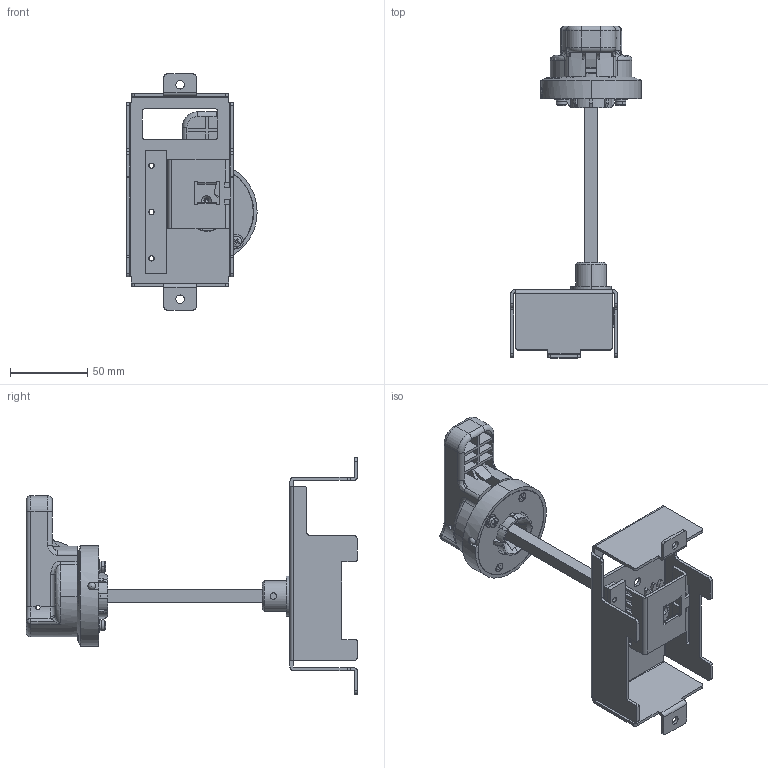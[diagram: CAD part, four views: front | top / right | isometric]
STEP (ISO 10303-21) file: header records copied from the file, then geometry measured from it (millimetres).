
FILE_DESCRIPTION (( 'STEP AP203' ), '1' );
FILE_NAME ('M5-250-Z1A.STEP', '2024-10-21T07:03:35', ( 'A' ), ( '' ), 'SwSTEP 2.0', 'SolidWorks 2018', '' );
FILE_SCHEMA (( 'CONFIG_CONTROL_DESIGN' ));
Products named in the file (1): M5-250-Z1A
Bounding box: 84.5 x 215 x 153 mm (x, y, z)
Surface area: 124416.9 mm2 (no closed solid volume)
Topology: 0 solids, 23 shells, 1453 faces, 3957 edges, 2555 vertices
Faces by surface type: plane 664, cylinder 490, bspline 168, cone 78, sphere 29, torus 24
Entity records: 56689 total; most frequent: CARTESIAN_POINT 20809, ORIENTED_EDGE 7772, DIRECTION 6975, EDGE_CURVE 3918, VERTEX_POINT 2545, AXIS2_PLACEMENT_3D 2391, LINE 2193, VECTOR 2193
